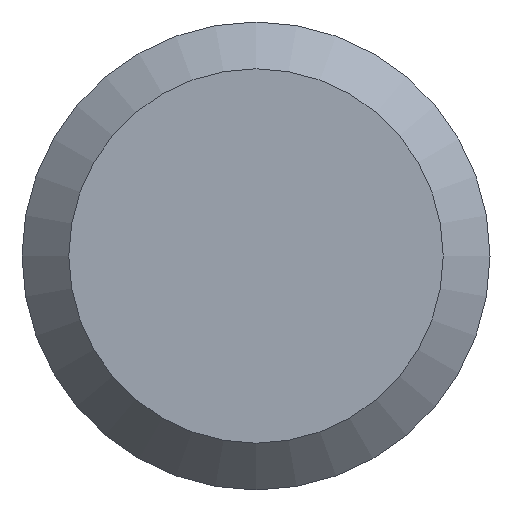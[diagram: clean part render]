
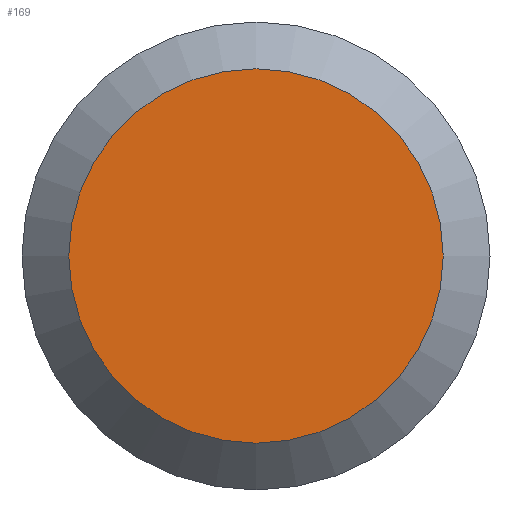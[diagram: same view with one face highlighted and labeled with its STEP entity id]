
A CAD part, left-side view. The second image highlights one B-rep face of the part: STEP entity #169.
In plain terms, the highlighted planar face has unit normal (-1, 0, 0).
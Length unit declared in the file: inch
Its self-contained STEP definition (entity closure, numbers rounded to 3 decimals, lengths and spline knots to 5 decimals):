
#10 = ORIENTED_EDGE ( 'NONE', *, *, #47, .T. ) ;
#18 = DIRECTION ( 'NONE',  ( 0., 0., -1. ) ) ;
#32 = CARTESIAN_POINT ( 'NONE',  ( 0., 0.03175, 0. ) ) ;
#47 = EDGE_CURVE ( 'NONE', #214, #214, #101, .T. ) ;
#50 = PLANE ( 'NONE',  #100 ) ;
#61 = CARTESIAN_POINT ( 'NONE',  ( 0., 0., -0.0254 ) ) ;
#77 = AXIS2_PLACEMENT_3D ( 'NONE', #154, #151, #149 ) ;
#100 = AXIS2_PLACEMENT_3D ( 'NONE', #32, #109, #18 ) ;
#101 = CIRCLE ( 'NONE', #77, 0.0254 ) ;
#109 = DIRECTION ( 'NONE',  ( 1., 0., 0. ) ) ;
#125 = FACE_OUTER_BOUND ( 'NONE', #175, .T. ) ;
#149 = DIRECTION ( 'NONE',  ( 0., 0., -1. ) ) ;
#151 = DIRECTION ( 'NONE',  ( -1., 0., 0. ) ) ;
#154 = CARTESIAN_POINT ( 'NONE',  ( 0., 0., 0. ) ) ;
#169 = ADVANCED_FACE ( 'NONE', ( #125 ), #50, .F. ) ;
#175 = EDGE_LOOP ( 'NONE', ( #10 ) ) ;
#214 = VERTEX_POINT ( 'NONE', #61 ) ;
